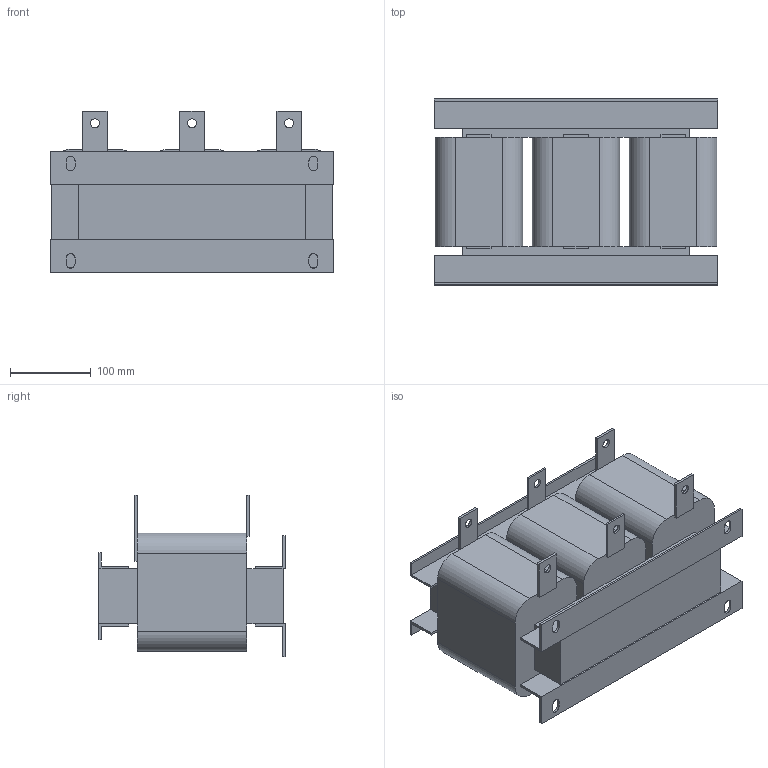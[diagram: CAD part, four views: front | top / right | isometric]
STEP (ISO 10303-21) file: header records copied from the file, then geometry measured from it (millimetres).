
FILE_DESCRIPTION(/* description */ (''),/* implementation_level */ '2;1');
FILE_NAME(/* name */ 'E:\Работа\Веда МК (Данфосс)\!Текущие задачи\2024.08.30 3D модели\Дроссели\ACO 1-проц 660 В\STP\ACO-C-0198-T6.stp',/* time_stamp */ '2024-10-31T16:03:47+04:00',/* author */ ('Александр (огранич)'),/* organization */ (''),/* preprocessor_version */ 'ST-DEVELOPER v18.1',/* originating_system */ 'Autodesk Inventor 2021',/* authorisation */ '');
FILE_SCHEMA (('AUTOMOTIVE_DESIGN { 1 0 10303 214 3 1 1 }'));
Length unit declared in the file: millimetre
Products named in the file (1): ACO-0015-T4-4
Bounding box: 350 x 230 x 200 mm (x, y, z)
Volume: 8242510.6 mm3; surface area: 521432.3 mm2
Topology: 3 solids, 3 shells, 136 faces, 373 edges, 239 vertices
Faces by surface type: plane 110, cylinder 26
Full cylindrical faces by diameter (mm): 11 x6
Entity records: 4327 total; most frequent: CARTESIAN_POINT 749, ORIENTED_EDGE 746, DIRECTION 702, EDGE_CURVE 373, LINE 318, VECTOR 318, VERTEX_POINT 239, AXIS2_PLACEMENT_3D 192
